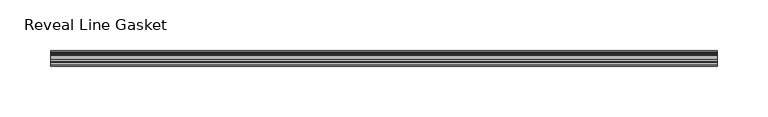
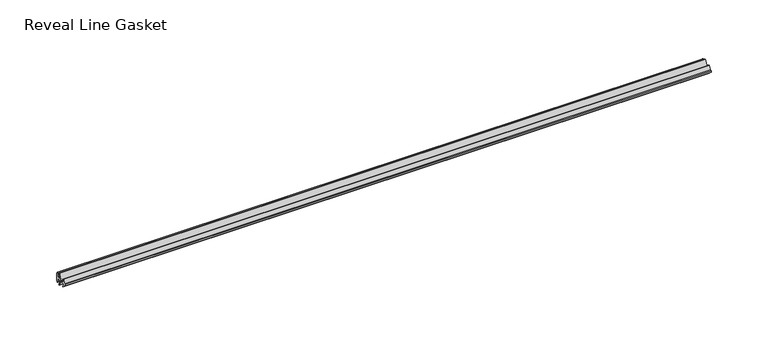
"""IFC4 building model written with IfcOpenShell, lengths in millimetres: proxy geometry, Accessories-Teknion-FHGR-AI_Healthcare-Reveal_Line_Gasket(Horizontal)-R2022 : Reveal Line Gasket."""

from ifc_helpers import new_model, si_unit, point, frame, frame_2d, origin, place, context, project, spatial, polyline, circle_curve, trimmed, segment, composite_curve, outline, extrude, source, transform, mapped, element, save


def reveal_line_gasket_417e901b(model_context):
    return source(origin(), model_context, "Body", "SweptSolid", [
        extrude(outline(composite_curve([segment(polyline([(7.6326998, 1603.2), (7.6326998, 1597.2), (7.4091917, 1596.2445073), (6.8813059, 1595.3115316)]), True, "CONTINUOUS"), segment(trimmed(circle_curve(frame_2d((6.5243141, 1595.5135207)), 0.4101739), [point((6.8813059, 1595.3115316))], [point((6.1246704, 1595.6058653))], False, "CARTESIAN"), True, "CONTINUOUS"), segment(polyline([(6.1246704, 1595.6058653), (6.3626997, 1597.3020914), (6.3626997, 1599.3345473)]), True, "CONTINUOUS"), segment(trimmed(circle_curve(frame_2d((5.6959605, 1598.9180742)), 0.786124), [point((6.3626997, 1599.3345473))], [point((5.0926996, 1599.422125))], True, "CARTESIAN"), True, "CONTINUOUS"), segment(polyline([(5.0926996, 1599.422125), (0.7492996, 1599.422125), (3.7293824, 1594.2604705)]), True, "CONTINUOUS"), segment(trimmed(circle_curve(frame_2d((3.3132479, 1594.1950239)), 0.4212495), [point((3.7293824, 1594.2604705))], [point((3.0485022, 1593.8673642))], False, "CARTESIAN"), True, "CONTINUOUS"), segment(polyline([(3.0485022, 1593.8673642), (-0.5742594, 1599.422125), (-4.8262978, 1599.422125), (-3.1660374, 1596.5464703)]), True, "CONTINUOUS"), segment(trimmed(circle_curve(frame_2d((-3.5978728, 1596.4881145)), 0.4357605), [point((-3.1660374, 1596.5464703))], [point((-3.864328, 1596.1433119))], False, "CARTESIAN"), True, "CONTINUOUS"), segment(polyline([(-3.864328, 1596.1433119), (-6.1944059, 1599.422125), (-7.6326998, 1599.422125), (-7.6326998, 1600.977875), (-6.1944059, 1600.977875), (-3.864328, 1604.2566881)]), True, "CONTINUOUS"), segment(trimmed(circle_curve(frame_2d((-3.5978728, 1603.9118855)), 0.4357605), [point((-3.864328, 1604.2566881))], [point((-3.1660374, 1603.8535297))], False, "CARTESIAN"), True, "CONTINUOUS"), segment(polyline([(-3.1660374, 1603.8535297), (-4.8262978, 1600.977875), (-0.5742594, 1600.977875), (3.0485022, 1606.5326358)]), True, "CONTINUOUS"), segment(trimmed(circle_curve(frame_2d((3.3132479, 1606.2049761)), 0.4212495), [point((3.0485022, 1606.5326358))], [point((3.7293824, 1606.1395295))], False, "CARTESIAN"), True, "CONTINUOUS"), segment(polyline([(3.7293824, 1606.1395295), (0.7492996, 1600.977875), (5.0926996, 1600.977875)]), True, "CONTINUOUS"), segment(trimmed(circle_curve(frame_2d((5.6959605, 1601.4819258)), 0.786124), [point((5.0926996, 1600.977875))], [point((6.3626997, 1601.0654527))], True, "CARTESIAN"), True, "CONTINUOUS"), segment(polyline([(6.3626997, 1601.0654527), (6.3626997, 1603.0979086), (6.1246704, 1604.7941347)]), True, "CONTINUOUS"), segment(trimmed(circle_curve(frame_2d((6.5243141, 1604.8864793)), 0.4101739), [point((6.1246704, 1604.7941347))], [point((6.8813059, 1605.0884684))], False, "CARTESIAN"), True, "CONTINUOUS"), segment(polyline([(6.8813059, 1605.0884684), (7.4091917, 1604.1554927), (7.6326998, 1603.2)]), True, "CONTINUOUS")], self_intersect=False)), frame((-328.3204, 0.0, 0.0), z_axis=(1.0, 0.0, 0.0), x_axis=(0.0, 1.0, 0.0)), (0.0, 0.0, 1.0), 656.6408),
    ])


if __name__ == "__main__":
    model = new_model("IFC4")
    model_context = context("Model", 3, world=origin())
    ifc_project = project(units=[si_unit("LENGTHUNIT", "METRE", prefix="MILLI")], contexts=[model_context])
    site = spatial("IfcSite", under=ifc_project)
    building = spatial("IfcBuilding", under=site)
    placement = place(None, origin())
    reveal_line_gasket_shape = reveal_line_gasket_417e901b(model_context)
    element("IfcBuildingElementProxy", 1, Name="Accessories-Teknion-FHGR-AI_Healthcare-Reveal_Line_Gasket(Horizontal)-R2022 : Reveal Line Gasket", ObjectType="Accessories-Teknion-FHGR-AI_Healthcare-Reveal_Line_Gasket(Horizontal)-R2022 : Reveal Line Gasket", at=placement, inside=building, context=model_context, shape_type="MappedRepresentation", body=[
        mapped(reveal_line_gasket_shape, transform((0.0, 0.0, 0.0), x_axis=(1.0, 0.0, 0.0), y_axis=(0.0, 1.0, 0.0), z_axis=(0.0, 0.0, 1.0))),
    ])
    save(model, "model.ifc")
